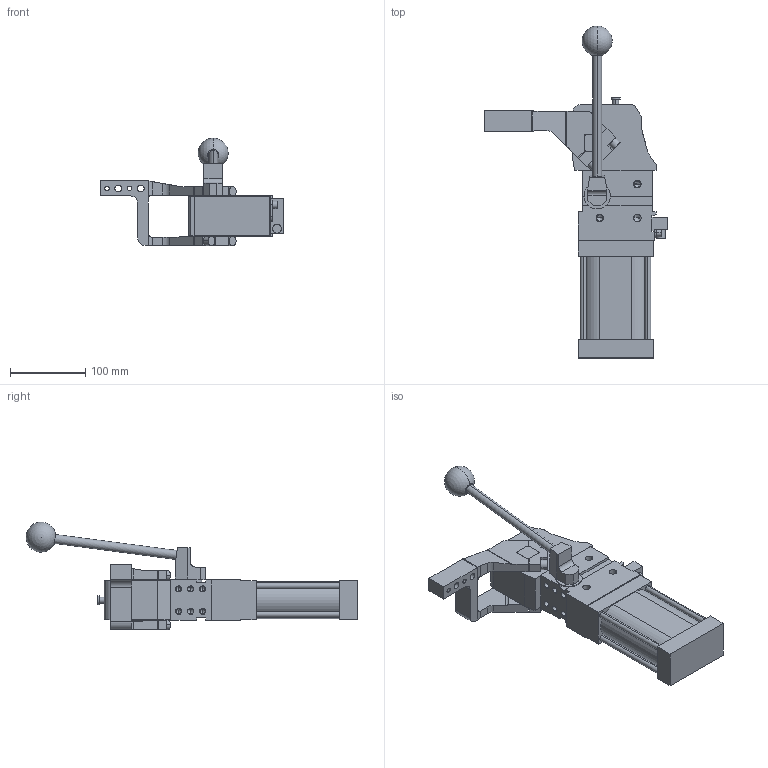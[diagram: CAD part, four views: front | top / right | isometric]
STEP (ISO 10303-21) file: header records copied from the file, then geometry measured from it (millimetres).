
FILE_DESCRIPTION (( 'STEP AP214' ), '1' );
FILE_NAME ('cplm63lav1si1g_135.STEP', '2023-01-26T14:36:07', ( '' ), ( '' ), 'SwSTEP 2.0', 'SolidWorks 2022', '' );
FILE_SCHEMA (( 'AUTOMOTIVE_DESIGN' ));
Length unit declared in the file: millimetre
Products named in the file (5): leva_sx_offset_15_cpl63; meccanica_cplm_63; cplm63lav1si1g_135; blocchetto_VEP_0; comando_manuale_cplm_63
Assembly tree (4 placements, depth 2):
  cplm63lav1si1g_135
    meccanica_cplm_63
    blocchetto_VEP_0
    leva_sx_offset_15_cpl63
    comando_manuale_cplm_63
Bounding box: 244.5 x 442.23 x 143.5 mm (x, y, z)
Volume: 1866260.9 mm3; surface area: 206781.4 mm2
Topology: 4 solids, 4 shells, 430 faces, 1128 edges, 699 vertices
Faces by surface type: plane 217, cylinder 161, cone 50, sphere 2
Entity records: 14523 total; most frequent: CARTESIAN_POINT 2312, DIRECTION 2297, ORIENTED_EDGE 2154, EDGE_CURVE 1077, AXIS2_PLACEMENT_3D 795, LINE 707, VECTOR 707, VERTEX_POINT 696
